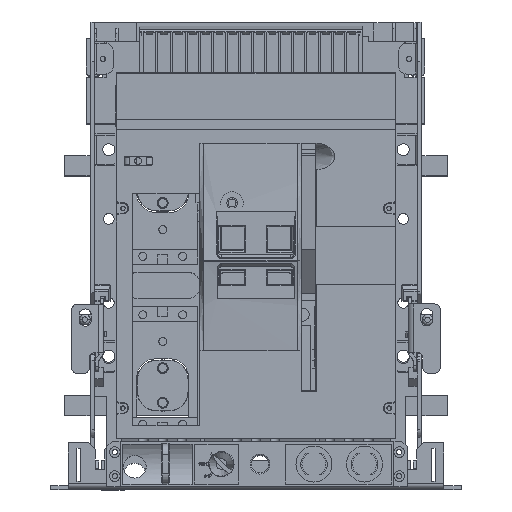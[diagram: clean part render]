
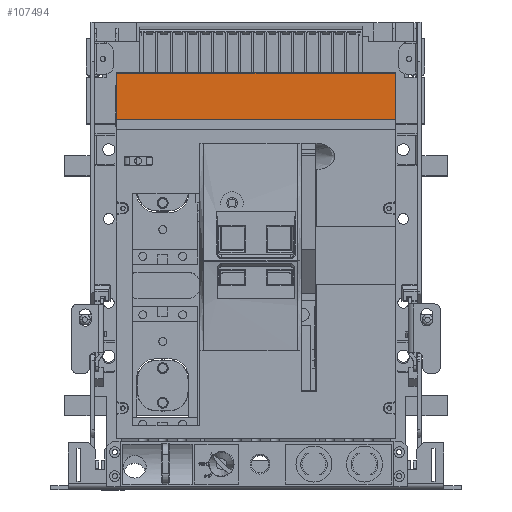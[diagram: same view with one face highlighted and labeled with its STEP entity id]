
A CAD part, top view. The second image highlights one B-rep face of the part: STEP entity #107494.
In plain terms, the highlighted planar face has unit normal (0, 0, 1) as drawn and (0, 1, 0) by its records, which use the part's own axes.
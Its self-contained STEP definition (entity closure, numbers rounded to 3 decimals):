
#102347=DIRECTION('',(-1.,0.,0.));
#102348=VECTOR('',#102347,209.);
#102349=CARTESIAN_POINT('',(104.5,88.,-137.));
#102350=LINE('',#102349,#102348);
#102355=DIRECTION('',(-1.,0.,0.));
#102356=VECTOR('',#102355,209.);
#102357=CARTESIAN_POINT('',(104.5,88.,-102.5));
#102358=LINE('',#102357,#102356);
#102371=DIRECTION('',(0.,0.,-1.));
#102372=VECTOR('',#102371,34.5);
#102373=CARTESIAN_POINT('',(104.5,88.,-102.5));
#102374=LINE('',#102373,#102372);
#102568=DIRECTION('',(0.,0.,1.));
#102569=VECTOR('',#102568,34.5);
#102570=CARTESIAN_POINT('',(-104.5,88.,-137.));
#102571=LINE('',#102570,#102569);
#106000=CARTESIAN_POINT('',(104.5,88.,-102.5));
#106001=CARTESIAN_POINT('',(104.5,88.,-137.));
#106002=VERTEX_POINT('',#106000);
#106003=VERTEX_POINT('',#106001);
#106004=CARTESIAN_POINT('',(-104.5,88.,-102.5));
#106005=VERTEX_POINT('',#106004);
#106006=CARTESIAN_POINT('',(-104.5,88.,-137.));
#106007=VERTEX_POINT('',#106006);
#107480=CARTESIAN_POINT('',(0.,88.,0.));
#107481=DIRECTION('',(0.,1.,0.));
#107482=DIRECTION('',(1.,0.,0.));
#107483=AXIS2_PLACEMENT_3D('',#107480,#107481,#107482);
#107484=PLANE('',#107483);
#107486=ORIENTED_EDGE('',*,*,#107485,.F.);
#107488=ORIENTED_EDGE('',*,*,#107487,.T.);
#107490=ORIENTED_EDGE('',*,*,#107489,.F.);
#107491=ORIENTED_EDGE('',*,*,#107470,.F.);
#107492=EDGE_LOOP('',(#107486,#107488,#107490,#107491));
#107493=FACE_OUTER_BOUND('',#107492,.F.);
#107470=EDGE_CURVE('',#106003,#106007,#102350,.T.);
#107485=EDGE_CURVE('',#106002,#106003,#102374,.T.);
#107487=EDGE_CURVE('',#106002,#106005,#102358,.T.);
#107489=EDGE_CURVE('',#106007,#106005,#102571,.T.);
#107494=ADVANCED_FACE('',(#107493),#107484,.T.);
